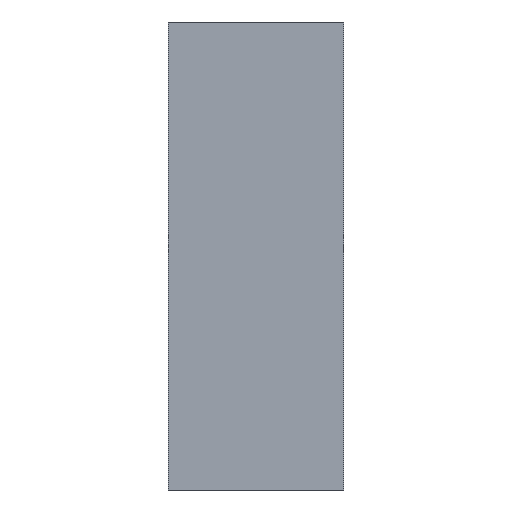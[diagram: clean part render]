
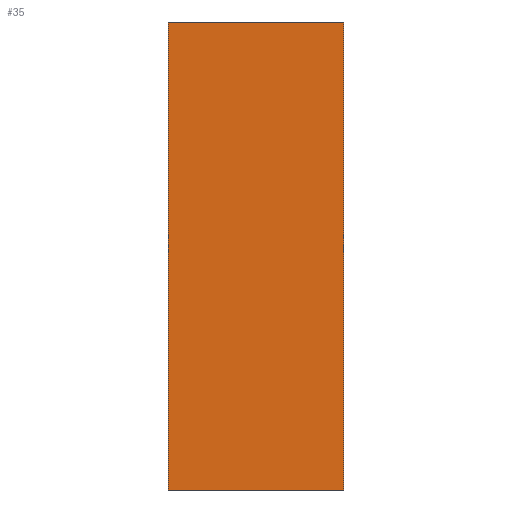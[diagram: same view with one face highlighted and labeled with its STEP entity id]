
A CAD part, left-side view. The second image highlights one B-rep face of the part: STEP entity #35.
In plain terms, the highlighted planar face has unit normal (-1, 0, 0).
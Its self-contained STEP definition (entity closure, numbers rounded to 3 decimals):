
#35 = ADVANCED_FACE('',(#36),#50,.F.);
#36 = FACE_BOUND('',#37,.F.);
#37 = EDGE_LOOP('',(#38,#73,#101,#129));
#38 = ORIENTED_EDGE('',*,*,#39,.F.);
#39 = EDGE_CURVE('',#40,#42,#44,.T.);
#40 = VERTEX_POINT('',#41);
#41 = CARTESIAN_POINT('',(-10.,-18.9,6.5));
#42 = VERTEX_POINT('',#43);
#43 = CARTESIAN_POINT('',(-10.,-18.9,10.5));
#44 = SURFACE_CURVE('',#45,(#49,#61),.PCURVE_S1.);
#45 = LINE('',#46,#47);
#46 = CARTESIAN_POINT('',(-10.,-18.9,6.5));
#47 = VECTOR('',#48,1.);
#48 = DIRECTION('',(0.,0.,1.));
#49 = PCURVE('',#50,#55);
#50 = PLANE('',#51);
#51 = AXIS2_PLACEMENT_3D('',#52,#53,#54);
#52 = CARTESIAN_POINT('',(-10.,-18.9,6.5));
#53 = DIRECTION('',(1.,0.,0.));
#54 = DIRECTION('',(0.,0.,1.));
#55 = DEFINITIONAL_REPRESENTATION('',(#56),#60);
#56 = LINE('',#57,#58);
#57 = CARTESIAN_POINT('',(0.,0.));
#58 = VECTOR('',#59,1.);
#59 = DIRECTION('',(1.,0.));
#60 = ( GEOMETRIC_REPRESENTATION_CONTEXT(2) 
PARAMETRIC_REPRESENTATION_CONTEXT() REPRESENTATION_CONTEXT('2D SPACE',''
  ) );
#61 = PCURVE('',#62,#67);
#62 = PLANE('',#63);
#63 = AXIS2_PLACEMENT_3D('',#64,#65,#66);
#64 = CARTESIAN_POINT('',(-10.,-18.9,6.5));
#65 = DIRECTION('',(0.,1.,0.));
#66 = DIRECTION('',(0.,0.,1.));
#67 = DEFINITIONAL_REPRESENTATION('',(#68),#72);
#68 = LINE('',#69,#70);
#69 = CARTESIAN_POINT('',(0.,0.));
#70 = VECTOR('',#71,1.);
#71 = DIRECTION('',(1.,0.));
#72 = ( GEOMETRIC_REPRESENTATION_CONTEXT(2) 
PARAMETRIC_REPRESENTATION_CONTEXT() REPRESENTATION_CONTEXT('2D SPACE',''
  ) );
#73 = ORIENTED_EDGE('',*,*,#74,.T.);
#74 = EDGE_CURVE('',#40,#75,#77,.T.);
#75 = VERTEX_POINT('',#76);
#76 = CARTESIAN_POINT('',(-10.,-17.4,6.5));
#77 = SURFACE_CURVE('',#78,(#82,#89),.PCURVE_S1.);
#78 = LINE('',#79,#80);
#79 = CARTESIAN_POINT('',(-10.,-18.9,6.5));
#80 = VECTOR('',#81,1.);
#81 = DIRECTION('',(0.,1.,0.));
#82 = PCURVE('',#50,#83);
#83 = DEFINITIONAL_REPRESENTATION('',(#84),#88);
#84 = LINE('',#85,#86);
#85 = CARTESIAN_POINT('',(0.,0.));
#86 = VECTOR('',#87,1.);
#87 = DIRECTION('',(0.,-1.));
#88 = ( GEOMETRIC_REPRESENTATION_CONTEXT(2) 
PARAMETRIC_REPRESENTATION_CONTEXT() REPRESENTATION_CONTEXT('2D SPACE',''
  ) );
#89 = PCURVE('',#90,#95);
#90 = PLANE('',#91);
#91 = AXIS2_PLACEMENT_3D('',#92,#93,#94);
#92 = CARTESIAN_POINT('',(-10.,-18.9,6.5));
#93 = DIRECTION('',(0.,0.,1.));
#94 = DIRECTION('',(1.,0.,0.));
#95 = DEFINITIONAL_REPRESENTATION('',(#96),#100);
#96 = LINE('',#97,#98);
#97 = CARTESIAN_POINT('',(0.,0.));
#98 = VECTOR('',#99,1.);
#99 = DIRECTION('',(0.,1.));
#100 = ( GEOMETRIC_REPRESENTATION_CONTEXT(2) 
PARAMETRIC_REPRESENTATION_CONTEXT() REPRESENTATION_CONTEXT('2D SPACE',''
  ) );
#101 = ORIENTED_EDGE('',*,*,#102,.T.);
#102 = EDGE_CURVE('',#75,#103,#105,.T.);
#103 = VERTEX_POINT('',#104);
#104 = CARTESIAN_POINT('',(-10.,-17.4,10.5));
#105 = SURFACE_CURVE('',#106,(#110,#117),.PCURVE_S1.);
#106 = LINE('',#107,#108);
#107 = CARTESIAN_POINT('',(-10.,-17.4,6.5));
#108 = VECTOR('',#109,1.);
#109 = DIRECTION('',(0.,0.,1.));
#110 = PCURVE('',#50,#111);
#111 = DEFINITIONAL_REPRESENTATION('',(#112),#116);
#112 = LINE('',#113,#114);
#113 = CARTESIAN_POINT('',(0.,-1.5));
#114 = VECTOR('',#115,1.);
#115 = DIRECTION('',(1.,0.));
#116 = ( GEOMETRIC_REPRESENTATION_CONTEXT(2) 
PARAMETRIC_REPRESENTATION_CONTEXT() REPRESENTATION_CONTEXT('2D SPACE',''
  ) );
#117 = PCURVE('',#118,#123);
#118 = PLANE('',#119);
#119 = AXIS2_PLACEMENT_3D('',#120,#121,#122);
#120 = CARTESIAN_POINT('',(-10.,-17.4,6.5));
#121 = DIRECTION('',(0.,1.,0.));
#122 = DIRECTION('',(0.,0.,1.));
#123 = DEFINITIONAL_REPRESENTATION('',(#124),#128);
#124 = LINE('',#125,#126);
#125 = CARTESIAN_POINT('',(0.,0.));
#126 = VECTOR('',#127,1.);
#127 = DIRECTION('',(1.,0.));
#128 = ( GEOMETRIC_REPRESENTATION_CONTEXT(2) 
PARAMETRIC_REPRESENTATION_CONTEXT() REPRESENTATION_CONTEXT('2D SPACE',''
  ) );
#129 = ORIENTED_EDGE('',*,*,#130,.F.);
#130 = EDGE_CURVE('',#42,#103,#131,.T.);
#131 = SURFACE_CURVE('',#132,(#136,#143),.PCURVE_S1.);
#132 = LINE('',#133,#134);
#133 = CARTESIAN_POINT('',(-10.,-18.9,10.5));
#134 = VECTOR('',#135,1.);
#135 = DIRECTION('',(0.,1.,0.));
#136 = PCURVE('',#50,#137);
#137 = DEFINITIONAL_REPRESENTATION('',(#138),#142);
#138 = LINE('',#139,#140);
#139 = CARTESIAN_POINT('',(4.,0.));
#140 = VECTOR('',#141,1.);
#141 = DIRECTION('',(0.,-1.));
#142 = ( GEOMETRIC_REPRESENTATION_CONTEXT(2) 
PARAMETRIC_REPRESENTATION_CONTEXT() REPRESENTATION_CONTEXT('2D SPACE',''
  ) );
#143 = PCURVE('',#144,#149);
#144 = PLANE('',#145);
#145 = AXIS2_PLACEMENT_3D('',#146,#147,#148);
#146 = CARTESIAN_POINT('',(-10.,-18.9,10.5));
#147 = DIRECTION('',(0.,0.,1.));
#148 = DIRECTION('',(1.,0.,0.));
#149 = DEFINITIONAL_REPRESENTATION('',(#150),#154);
#150 = LINE('',#151,#152);
#151 = CARTESIAN_POINT('',(0.,0.));
#152 = VECTOR('',#153,1.);
#153 = DIRECTION('',(0.,1.));
#154 = ( GEOMETRIC_REPRESENTATION_CONTEXT(2) 
PARAMETRIC_REPRESENTATION_CONTEXT() REPRESENTATION_CONTEXT('2D SPACE',''
  ) );
